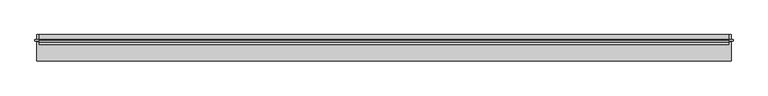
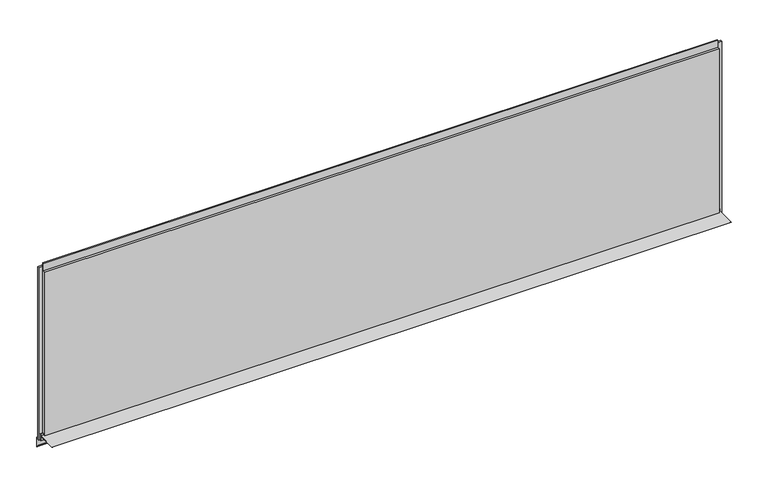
"""IFC4 building model written with IfcOpenShell, lengths in millimetres: plate geometry, Trimo_Qbiss Screen_Normal Panel-HORIZONTAL : HR - B."""

from ifc_helpers import new_model, si_unit, frame, origin, place, context, project, spatial, polyline, outline, extrude, source, transform, mapped, element, save


def plate_62542947(model_context):
    return source(origin(), model_context, "Body", "SweptSolid", [
        extrude(outline(polyline([(66.7, 14.0835797), (67.5, 14.0835797), (67.5, -23.0), (100.0, -25.8433816), (100.0, -76.0), (87.1509533, -63.1509533), (87.7166388, -62.5852679), (99.2, -74.0686292), (99.2, -26.5764465), (66.7, -23.7330649), (66.7, 1.0), (-32.5, 1.0), (-32.5, 1.8), (66.7, 1.8), (66.7, 14.0835797)])), frame((-1732.5, 0.0, 0.0), z_axis=(1.0, 0.0, 0.0), x_axis=(0.0, 1.0, 0.0)), (0.0, 0.0, 1.0), 3465.0),
        extrude(outline(polyline([(-1723.0, 76.5978162), (-1723.0, 67.8978162), (-1742.0, 67.8978162), (-1742.0, 76.5978162), (-1723.0, 76.5978162)])), frame((0.0, 0.0, -20.0), z_axis=(0.0, 0.0, 1.0), x_axis=(1.0, 0.0, 0.0)), (0.0, 0.0, 1.0), 931.5),
        extrude(outline(polyline([(1723.0, 67.8978162), (1723.0, 76.5978162), (1742.0, 76.5978162), (1742.0, 67.8978162), (1723.0, 67.8978162)])), frame((0.0, 0.0, -20.0), z_axis=(0.0, 0.0, 1.0), x_axis=(1.0, 0.0, 0.0)), (0.0, 0.0, 1.0), 931.5),
        extrude(outline(polyline([(1720.0, 76.0), (1720.0, 71.0), (-1720.0, 71.0), (-1720.0, 76.0), (1720.0, 76.0)])), frame((0.0, 0.0, 890.5), z_axis=(0.0, 0.0, 1.0), x_axis=(1.0, 0.0, 0.0)), (0.0, 0.0, 1.0), 21.0),
        extrude(outline(polyline([(71.0, 889.5), (100.0, 889.5), (100.0, 0.0), (72.0, 0.0), (72.0, 15.5), (62.0, 15.5), (62.0, 7.0), (50.0, 7.0), (50.0, 889.5), (63.0, 889.5), (63.0, 927.0), (71.0, 927.0), (71.0, 889.5)])), frame((-1720.0, 0.0, 0.0), z_axis=(1.0, 0.0, 0.0), x_axis=(0.0, 1.0, 0.0)), (0.0, 0.0, 1.0), 3440.0),
    ])


if __name__ == "__main__":
    model = new_model("IFC4")
    model_context = context("Model", 3, world=origin())
    ifc_project = project(units=[si_unit("LENGTHUNIT", "METRE", prefix="MILLI")], contexts=[model_context])
    site = spatial("IfcSite", under=ifc_project)
    building = spatial("IfcBuilding", under=site)
    placement = place(None, origin())
    plate_shape = plate_62542947(model_context)
    element("IfcPlate", 1, ObjectType="Trimo_Qbiss Screen_Normal Panel-HORIZONTAL : HR - B", at=placement, inside=building, context=model_context, shape_type="MappedRepresentation", body=[
        mapped(plate_shape, transform((0.0, 0.0, 0.0), x_axis=(1.0, 0.0, 0.0), y_axis=(0.0, 1.0, 0.0), z_axis=(0.0, 0.0, 1.0))),
    ])
    save(model, "model.ifc")
